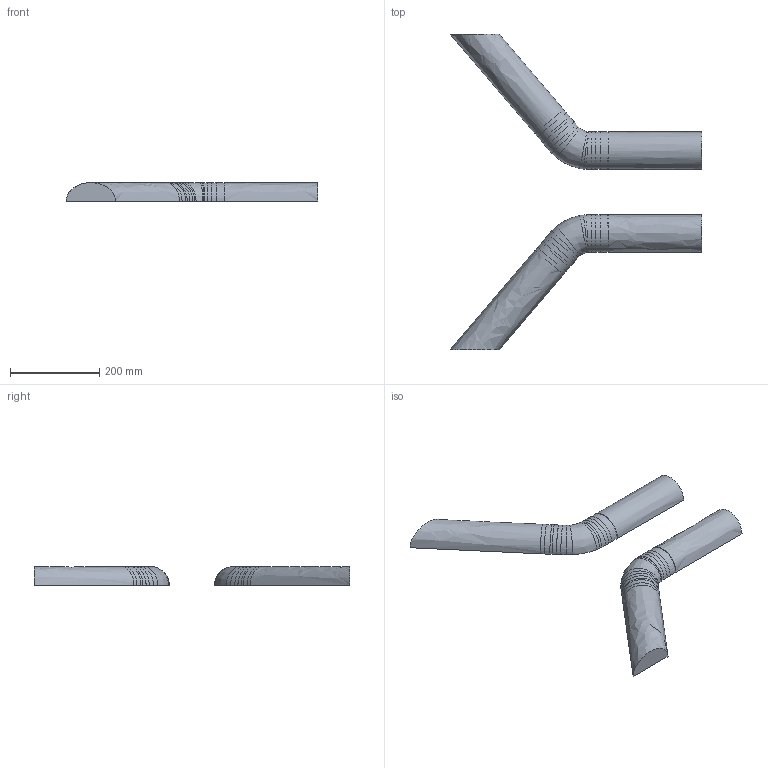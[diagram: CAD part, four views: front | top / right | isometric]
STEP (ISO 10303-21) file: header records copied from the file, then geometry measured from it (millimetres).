
FILE_DESCRIPTION(/* description */ (''),/* implementation_level */ '2;1');
FILE_NAME(/* name */ 'Hide-forme',/* time_stamp */ '2026-09-01T14:30:30+02:00',/* author */ (''),/* organization */ (''),/* preprocessor_version */ 'ST-DEVELOPER v19.2',/* originating_system */ 'Rhino 8.29',/* authorisation */ '');
FILE_SCHEMA (('CONFIG_CONTROL_DESIGN'));
Length unit declared in the file: centimetre
Products named in the file (1): Document
Bounding box: 562.42 x 705.36 x 42 mm (x, y, z)
Volume: 3453196.6 mm3; surface area: 281888.5 mm2
Topology: 2 solids, 2 shells, 42 faces, 114 edges, 76 vertices
Faces by surface type: cylinder 20, bspline 16, plane 6
Entity records: 2136 total; most frequent: CARTESIAN_POINT 1232, ORIENTED_EDGE 228, EDGE_CURVE 114, DIRECTION 102, VERTEX_POINT 76, AXIS2_PLACEMENT_3D 64, ADVANCED_FACE 42, FACE_OUTER_BOUND 42
